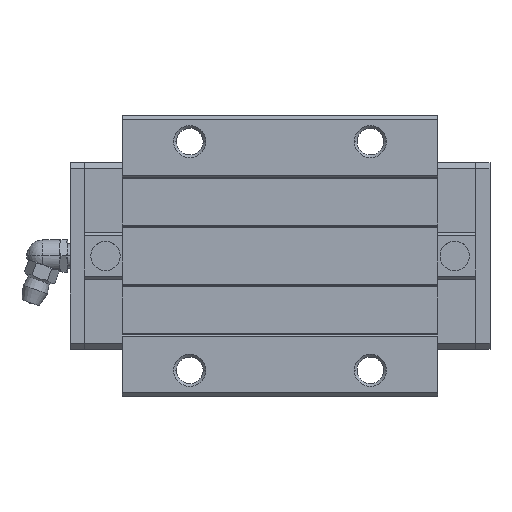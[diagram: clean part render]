
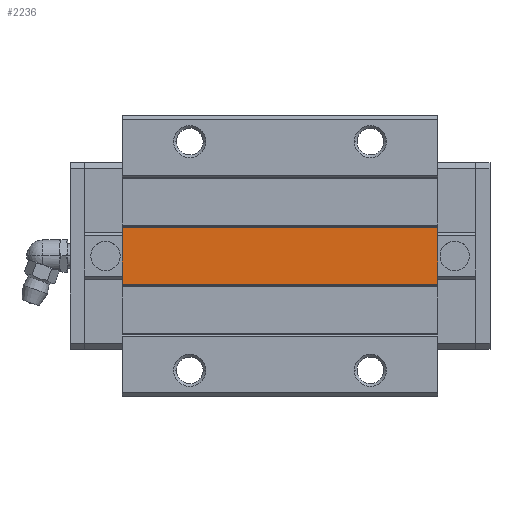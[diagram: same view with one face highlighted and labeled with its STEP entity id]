
A CAD part, top view. The second image highlights one B-rep face of the part: STEP entity #2236.
In plain terms, the highlighted planar face has unit normal (0, 0, 1).
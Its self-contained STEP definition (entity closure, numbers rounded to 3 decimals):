
#2175=CARTESIAN_POINT('POINT224',(91.6,-7.013,30.5));
#2176=VERTEX_POINT('VERTEX224',#2175);
#2183=CARTESIAN_POINT('POINT225',(13.,-7.013,30.5));
#2184=VERTEX_POINT('VERTEX225',#2183);
#2185=CARTESIAN_POINT('POS303',(13.,-7.013,30.5));
#2186=DIRECTION('DIR445',(1.,0.,0.));
#2187=VECTOR('VEC161',#2186,1.);
#2188=LINE('STRAIGHT161',#2185,#2187);
#2189=EDGE_CURVE('EDGE354',#2184,#2176,#2188,.T.);
#2206=CARTESIAN_POINT('POINT226',(91.6,7.,30.5));
#2207=VERTEX_POINT('VERTEX226',#2206);
#2208=CARTESIAN_POINT('POS306',(91.6,7.,30.5));
#2209=DIRECTION('DIR449',(0.,1.,0.));
#2210=VECTOR('VEC163',#2209,1.);
#2211=LINE('STRAIGHT163',#2208,#2210);
#2212=EDGE_CURVE('EDGE356',#2176,#2207,#2211,.T.);
#2213=ORIENTED_EDGE('COEDGE648',*,*,#2212,.T.);
#2214=CARTESIAN_POINT('POINT227',(13.,7.,30.5));
#2215=VERTEX_POINT('VERTEX227',#2214);
#2216=CARTESIAN_POINT('POS307',(13.,7.,30.5));
#2217=DIRECTION('DIR450',(1.,0.,0.));
#2218=VECTOR('VEC164',#2217,1.);
#2219=LINE('STRAIGHT164',#2216,#2218);
#2220=EDGE_CURVE('EDGE357',#2215,#2207,#2219,.T.);
#2221=ORIENTED_EDGE('COEDGE649',*,*,#2220,.F.);
#2222=CARTESIAN_POINT('POS308',(13.,7.,30.5));
#2223=DIRECTION('DIR451',(0.,-1.,0.));
#2224=VECTOR('VEC165',#2223,1.);
#2225=LINE('STRAIGHT165',#2222,#2224);
#2226=EDGE_CURVE('EDGE358',#2215,#2184,#2225,.T.);
#2227=ORIENTED_EDGE('COEDGE650',*,*,#2226,.T.);
#2228=ORIENTED_EDGE('COEDGE651',*,*,#2189,.T.);
#2229=EDGE_LOOP('NONE',(#2213,#2221,#2227,#2228));
#2230=FACE_BOUND('LOOP1',#2229,.T.);
#2231=CARTESIAN_POINT('POS309',(13.,-7.013,30.5));
#2232=DIRECTION('DIR452',(0.,0.,1.));
#2233=DIRECTION('DIR453',(1.,0.,0.));
#2234=AXIS2_PLACEMENT_3D('AXIS144',#2231,#2232,#2233);
#2235=PLANE('PLANE44',#2234);
#2236=ADVANCED_FACE('FACE139',(#2230),#2235,.T.);
